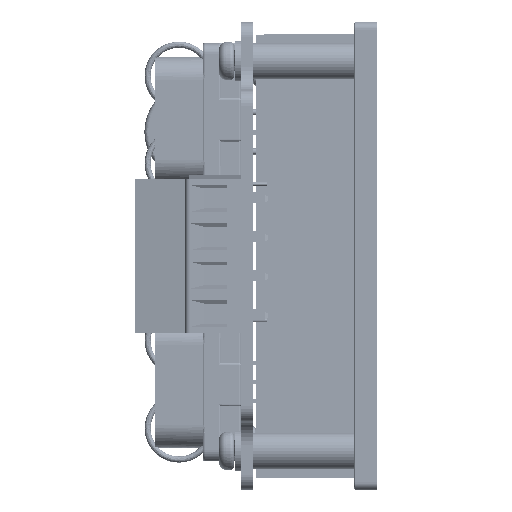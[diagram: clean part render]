
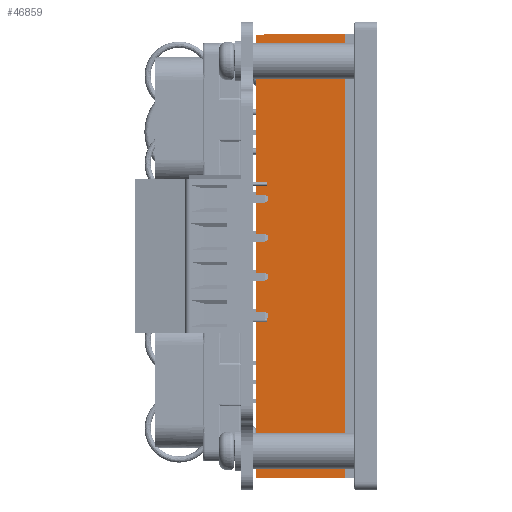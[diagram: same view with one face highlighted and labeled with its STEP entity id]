
A CAD part, left-side view. The second image highlights one B-rep face of the part: STEP entity #46859.
In plain terms, the highlighted planar face has unit normal (-1, 0.009, 0).
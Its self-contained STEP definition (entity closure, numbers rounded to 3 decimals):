
#9821 = VERTEX_POINT ( 'NONE', #260619 ) ;
#11259 = VECTOR ( 'NONE', #135871, 1000. ) ;
#17593 = FACE_OUTER_BOUND ( 'NONE', #160476, .T. ) ;
#18487 = CARTESIAN_POINT ( 'NONE',  ( -2.57, 15.8, -28.855 ) ) ;
#21698 = EDGE_CURVE ( 'NONE', #141626, #154281, #260094, .T. ) ;
#22422 = EDGE_CURVE ( 'NONE', #9821, #112972, #138676, .T. ) ;
#24051 = CARTESIAN_POINT ( 'NONE',  ( -2.57, 15.8, 28.843 ) ) ;
#28179 = CARTESIAN_POINT ( 'NONE',  ( -2.671, 4.2, 28.944 ) ) ;
#31938 = LINE ( 'NONE', #251197, #11259 ) ;
#46416 = EDGE_CURVE ( 'NONE', #141626, #9821, #31938, .T. ) ;
#46859 = ADVANCED_FACE ( 'NONE', ( #17593 ), #104442, .T. ) ;
#83274 = CARTESIAN_POINT ( 'NONE',  ( -2.671, 4.2, 28.944 ) ) ;
#97386 = CARTESIAN_POINT ( 'NONE',  ( -2.671, 4.2, 28.944 ) ) ;
#104442 = PLANE ( 'NONE',  #124872 ) ;
#105852 = CARTESIAN_POINT ( 'NONE',  ( -2.671, 4.2, 28.944 ) ) ;
#112972 = VERTEX_POINT ( 'NONE', #28179 ) ;
#124872 = AXIS2_PLACEMENT_3D ( 'NONE', #105852, #253982, #191300 ) ;
#135871 = DIRECTION ( 'NONE',  ( -0.009, -1., -0.009 ) ) ;
#138676 = LINE ( 'NONE', #97386, #212894 ) ;
#141626 = VERTEX_POINT ( 'NONE', #18487 ) ;
#154281 = VERTEX_POINT ( 'NONE', #24051 ) ;
#158142 = VECTOR ( 'NONE', #242929, 1000. ) ;
#160476 = EDGE_LOOP ( 'NONE', ( #223518, #193719, #224036, #275952 ) ) ;
#162867 = DIRECTION ( 'NONE',  ( 0., 0., 1. ) ) ;
#169166 = VECTOR ( 'NONE', #262534, 1000. ) ;
#191300 = DIRECTION ( 'NONE',  ( 0.009, 1., 0. ) ) ;
#193719 = ORIENTED_EDGE ( 'NONE', *, *, #193759, .F. ) ;
#193759 = EDGE_CURVE ( 'NONE', #154281, #112972, #258381, .T. ) ;
#212894 = VECTOR ( 'NONE', #162867, 1000. ) ;
#223518 = ORIENTED_EDGE ( 'NONE', *, *, #22422, .T. ) ;
#224036 = ORIENTED_EDGE ( 'NONE', *, *, #21698, .F. ) ;
#242929 = DIRECTION ( 'NONE',  ( 0., 0., 1. ) ) ;
#251197 = CARTESIAN_POINT ( 'NONE',  ( -2.667, 4.705, -28.952 ) ) ;
#253982 = DIRECTION ( 'NONE',  ( -1., 0.009, 0. ) ) ;
#258381 = LINE ( 'NONE', #83274, #169166 ) ;
#260094 = LINE ( 'NONE', #265674, #158142 ) ;
#260619 = CARTESIAN_POINT ( 'NONE',  ( -2.671, 4.2, -28.956 ) ) ;
#262534 = DIRECTION ( 'NONE',  ( -0.009, -1., 0.009 ) ) ;
#265674 = CARTESIAN_POINT ( 'NONE',  ( -2.57, 15.8, 28.944 ) ) ;
#275952 = ORIENTED_EDGE ( 'NONE', *, *, #46416, .T. ) ;
